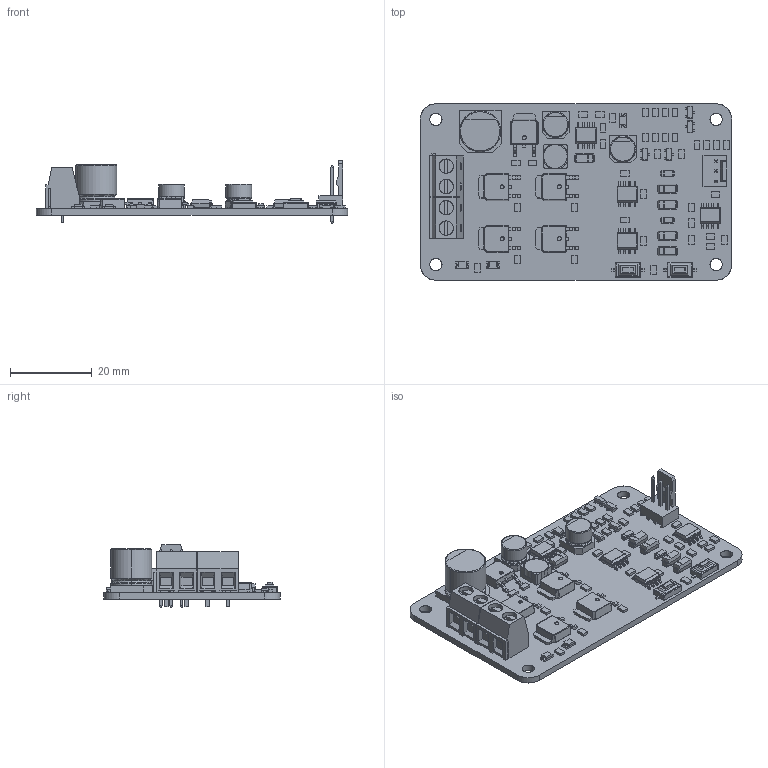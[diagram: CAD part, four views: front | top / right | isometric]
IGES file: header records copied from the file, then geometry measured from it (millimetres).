
Start section: SolidWorks IGES file using analytic representation for surfaces
Global section: file name: C:\Users\DIANMIAO\Desktop\MD10C STEP\MD10C.IGS; native system: SolidWorks 2015; preprocessor: SolidWorks 2015; author: DIANMIAO; date: 180424.181022; units: millimetre
Bounding box: 76.2 x 43.18 x 15.26 mm (x, y, z)
Surface area: 12604 mm2 (no closed solid volume)
Topology: 0 solids, 0 shells, 3461 faces, 21769 edges, 21623 vertices
Faces by surface type: bspline 2381, revolution 1080
